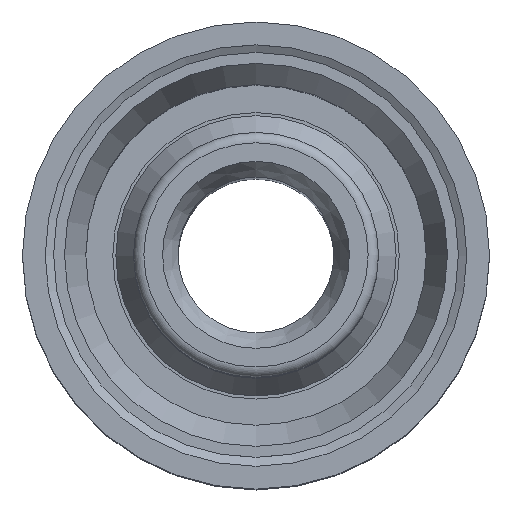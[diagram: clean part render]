
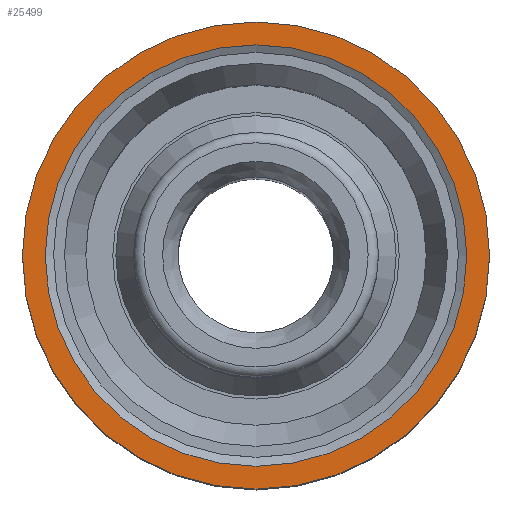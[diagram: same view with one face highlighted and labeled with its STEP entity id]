
A CAD part, top view. The second image highlights one B-rep face of the part: STEP entity #25499.
In plain terms, the highlighted planar face has unit normal (0, 0, 1).
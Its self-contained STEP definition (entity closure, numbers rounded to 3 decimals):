
#304=PLANE('',#26918);
#1857=FACE_BOUND('',#4342,.T.);
#2862=FACE_OUTER_BOUND('',#4341,.T.);
#4341=EDGE_LOOP('',(#22089,#22090));
#4342=EDGE_LOOP('',(#22091,#22092));
#10000=CIRCLE('',#26916,10.15);
#10001=CIRCLE('',#26917,10.15);
#10002=CIRCLE('',#26919,11.25);
#10003=CIRCLE('',#26920,11.25);
#11978=VERTEX_POINT('',#51176);
#11979=VERTEX_POINT('',#51178);
#11980=VERTEX_POINT('',#51182);
#11981=VERTEX_POINT('',#51183);
#15476=EDGE_CURVE('',#11978,#11979,#10000,.T.);
#15477=EDGE_CURVE('',#11979,#11978,#10001,.T.);
#15478=EDGE_CURVE('',#11980,#11981,#10002,.T.);
#15479=EDGE_CURVE('',#11981,#11980,#10003,.T.);
#22089=ORIENTED_EDGE('',*,*,#15478,.T.);
#22090=ORIENTED_EDGE('',*,*,#15479,.T.);
#22091=ORIENTED_EDGE('',*,*,#15477,.F.);
#22092=ORIENTED_EDGE('',*,*,#15476,.F.);
#25499=ADVANCED_FACE('',(#2862,#1857),#304,.F.);
#26916=AXIS2_PLACEMENT_3D('',#51179,#30022,#30023);
#26917=AXIS2_PLACEMENT_3D('',#51180,#30024,#30025);
#26918=AXIS2_PLACEMENT_3D('',#51181,#30026,#30027);
#26919=AXIS2_PLACEMENT_3D('',#51184,#30028,#30029);
#26920=AXIS2_PLACEMENT_3D('',#51185,#30030,#30031);
#30022=DIRECTION('center_axis',(0.,0.,1.));
#30023=DIRECTION('ref_axis',(1.,0.,0.));
#30024=DIRECTION('center_axis',(0.,0.,1.));
#30025=DIRECTION('ref_axis',(1.,0.,0.));
#30026=DIRECTION('center_axis',(0.,0.,-1.));
#30027=DIRECTION('ref_axis',(-1.,0.,0.));
#30028=DIRECTION('center_axis',(0.,0.,1.));
#30029=DIRECTION('ref_axis',(1.,0.,0.));
#30030=DIRECTION('center_axis',(0.,0.,1.));
#30031=DIRECTION('ref_axis',(1.,0.,0.));
#51176=CARTESIAN_POINT('',(0.,10.15,0.));
#51178=CARTESIAN_POINT('',(0.,-10.15,0.));
#51179=CARTESIAN_POINT('Origin',(0.,0.,0.));
#51180=CARTESIAN_POINT('Origin',(0.,0.,0.));
#51181=CARTESIAN_POINT('Origin',(0.,-11.25,0.));
#51182=CARTESIAN_POINT('',(0.,-11.25,0.));
#51183=CARTESIAN_POINT('',(0.,11.25,0.));
#51184=CARTESIAN_POINT('Origin',(0.,0.,0.));
#51185=CARTESIAN_POINT('Origin',(0.,0.,0.));
